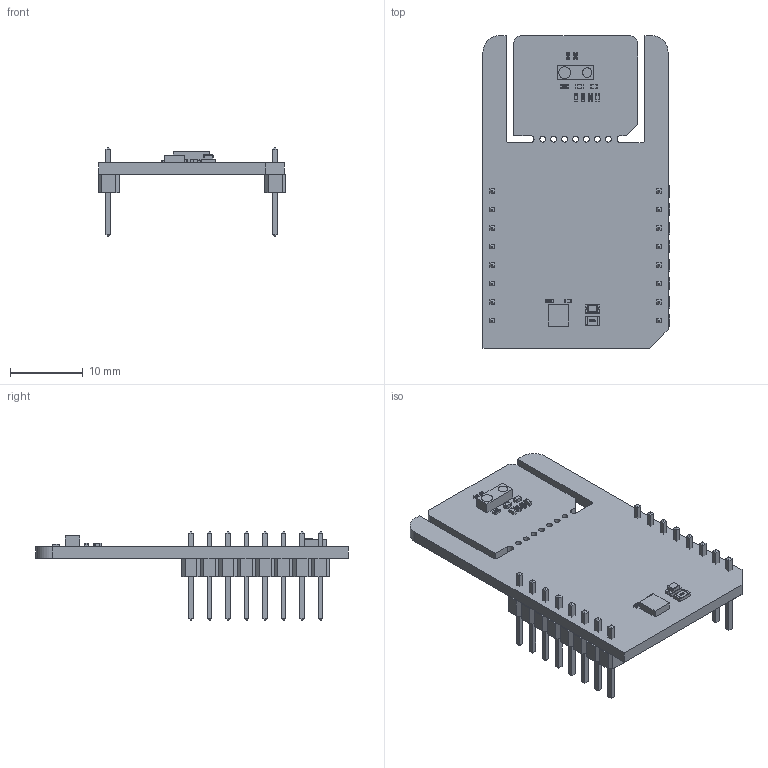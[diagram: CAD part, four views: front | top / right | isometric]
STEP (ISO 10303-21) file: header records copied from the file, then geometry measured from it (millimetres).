
FILE_DESCRIPTION(('Open CASCADE Model'),'2;1');
FILE_NAME('Open CASCADE Shape Model','2026-03-09T15:28:36',('Author'),( 'Open CASCADE'),'Open CASCADE STEP processor 7.5','Open CASCADE 7.5' ,'Unknown');
FILE_SCHEMA(('AUTOMOTIVE_DESIGN { 1 0 10303 214 1 1 1 1 }'));
Length unit declared in the file: millimetre
Products named in the file (37): PCB; Board; Open CASCADE STEP translator 7.5 1.1.1; C5; User Library-SMD CAPACITOR0402; U2; 7576945104; Cylinder; 7576944864; 7576944704; Extruded; R7; User Library-R_0402; R6; R5; R4; R3; C4; C3; C2; U1; 7576943584; C1; R2; LD1; led_0805_green; R1; User Library-R_0805; MBD1; Header 1x8; Free-Models; 1240637040; User_Library-PinHeaderX5-1_PinHeaderX5_Body_1; User_Library-PinHeaderX5-1_PinHeaderX5_Pins_1
Assembly tree (47 placements, depth 7):
  PCB
    Board
      Open CASCADE STEP translator 7.5 1.1.1
    C5
      User Library-SMD CAPACITOR0402
    U2
      7576945104
        Cylinder
      7576944864
        Cylinder
      7576944704
        Extruded
    R7
      User Library-R_0402
    R6
      User Library-R_0402
    R5
      User Library-R_0402
    R4
      User Library-R_0402
    R3
      User Library-R_0402
    C4
      User Library-SMD CAPACITOR0402
    C3
      User Library-SMD CAPACITOR0402
    C2
      User Library-SMD CAPACITOR0402
    U1
      7576943584
        Extruded
    C1
      User Library-SMD CAPACITOR0402
    R2
      User Library-R_0402
    LD1
      led_0805_green
    R1
      User Library-R_0805
    MBD1
      Header 1x8  x2
        PCB
          Free-Models
            1240637040  x2
              User_Library-PinHeaderX5-1_PinHeaderX5_Body_1
              User_Library-PinHeaderX5-1_PinHeaderX5_Pins_1
Bounding box: 25.78 x 42.93 x 12.19 mm (x, y, z)
Volume: 2154.5 mm3; surface area: 3879.1 mm2
Topology: 47 solids, 47 shells, 1395 faces, 3469 edges, 2186 vertices
Faces by surface type: plane 1045, bspline 198, cylinder 108, sphere 44
Full cylindrical faces by diameter (mm): 0.8 x7, 1.3 x1, 1.6 x1
Entity records: 20288 total; most frequent: CARTESIAN_POINT 6691, ORIENTED_EDGE 2194, DIRECTION 1901, EDGE_CURVE 1097, LINE 869, VECTOR 869, VERTEX_POINT 706, AXIS2_PLACEMENT_3D 516
